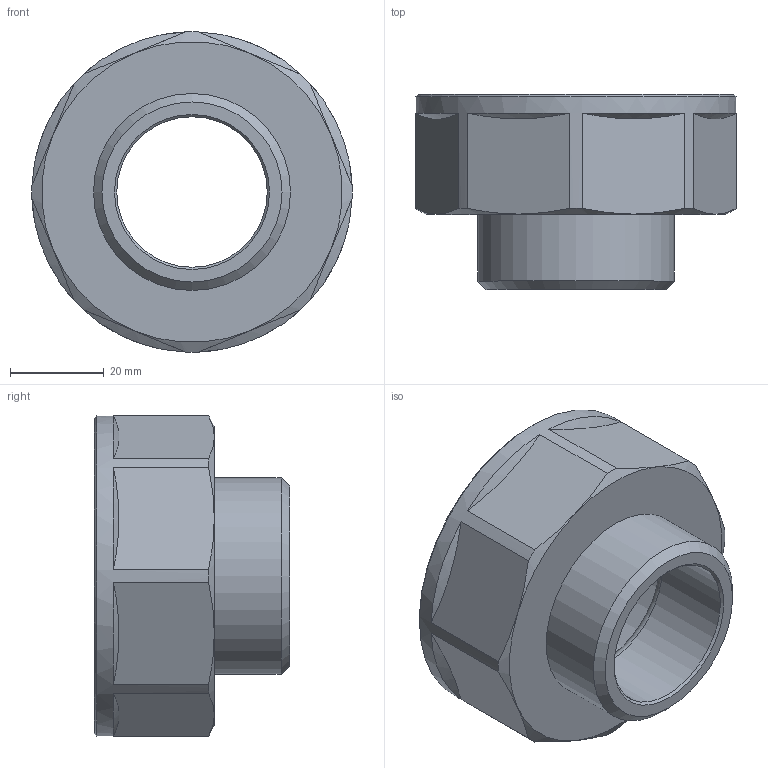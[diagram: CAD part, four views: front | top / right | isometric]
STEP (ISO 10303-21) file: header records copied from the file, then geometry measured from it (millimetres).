
FILE_DESCRIPTION(('STEP AP203'), '1');
FILE_NAME('ﾂﾐ.753158.009 - VTr.592.N.0907 ﾏ褞襄. G2xG1 1-4', '2024-07-08T09:40:39', ('Boss'), (''), 'C3D Converter', 'C3D Toolkit', '');
FILE_SCHEMA(('CONFIG_CONTROL_DESIGN'));
Length unit declared in the file: millimetre
Products named in the file (1): ВР.753158.009
Bounding box: 68.19 x 41.5 x 68.19 mm (x, y, z)
Volume: 38651.3 mm3; surface area: 18329.3 mm2
Topology: 1 solids, 1 shells, 37 faces, 85 edges, 52 vertices
Faces by surface type: cone 20, plane 12, cylinder 4, torus 1
Full cylindrical faces by diameter (mm): 32 x1, 41.91 x1, 56.657 x1, 68.2 x1
Entity records: 1463 total; most frequent: CARTESIAN_POINT 739, DIRECTION 144, ORIENTED_EDGE 132, EDGE_CURVE 66, AXIS2_PLACEMENT_3D 64, VERTEX_POINT 47, EDGE_LOOP 45, ADVANCED_FACE 32
